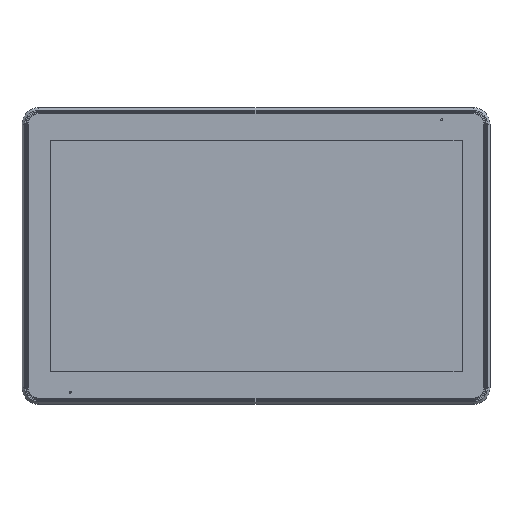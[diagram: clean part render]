
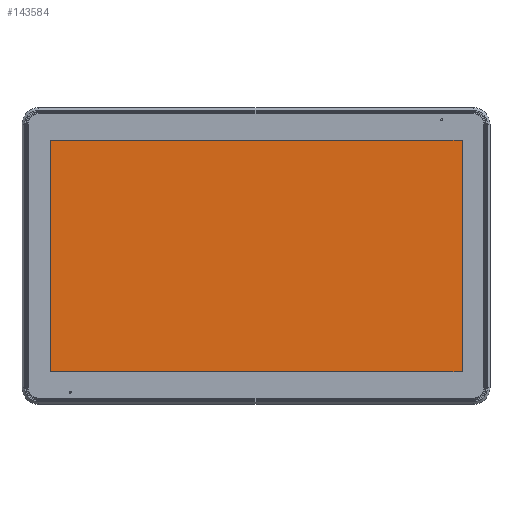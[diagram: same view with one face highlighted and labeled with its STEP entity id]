
A CAD part, top view. The second image highlights one B-rep face of the part: STEP entity #143584.
In plain terms, the highlighted planar face has unit normal (0, 0, 1).
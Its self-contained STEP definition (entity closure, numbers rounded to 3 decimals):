
#6758=PLANE('',#153529);
#12237=FACE_OUTER_BOUND('',#20086,.T.);
#20086=EDGE_LOOP('',(#113044,#113045,#113046,#113047));
#38081=LINE('',#231315,#51433);
#38082=LINE('',#231317,#51434);
#38083=LINE('',#231319,#51435);
#38084=LINE('',#231320,#51436);
#51433=VECTOR('',#180751,10.);
#51434=VECTOR('',#180752,10.);
#51435=VECTOR('',#180753,10.);
#51436=VECTOR('',#180754,10.);
#63650=VERTEX_POINT('',#231313);
#63651=VERTEX_POINT('',#231314);
#63652=VERTEX_POINT('',#231316);
#63653=VERTEX_POINT('',#231318);
#80878=EDGE_CURVE('',#63650,#63651,#38081,.T.);
#80879=EDGE_CURVE('',#63651,#63652,#38082,.T.);
#80880=EDGE_CURVE('',#63652,#63653,#38083,.T.);
#80881=EDGE_CURVE('',#63653,#63650,#38084,.T.);
#113044=ORIENTED_EDGE('',*,*,#80878,.T.);
#113045=ORIENTED_EDGE('',*,*,#80879,.T.);
#113046=ORIENTED_EDGE('',*,*,#80880,.T.);
#113047=ORIENTED_EDGE('',*,*,#80881,.T.);
#143584=ADVANCED_FACE('',(#12237),#6758,.T.);
#153529=AXIS2_PLACEMENT_3D('',#231312,#180749,#180750);
#180749=DIRECTION('center_axis',(0.,0.,
1.));
#180750=DIRECTION('ref_axis',(1.,0.,0.));
#180751=DIRECTION('',(-1.,0.,0.));
#180752=DIRECTION('',(0.,-1.,0.));
#180753=DIRECTION('',(1.,0.,0.));
#180754=DIRECTION('',(0.,1.,0.));
#231312=CARTESIAN_POINT('Origin',(0.,0.,
-0.201));
#231313=CARTESIAN_POINT('',(205.35,115.3,-0.201));
#231314=CARTESIAN_POINT('',(-204.85,115.3,-0.201));
#231315=CARTESIAN_POINT('',(0.125,115.3,-0.201));
#231316=CARTESIAN_POINT('',(-204.85,-115.5,-0.201));
#231317=CARTESIAN_POINT('',(-204.85,-0.05,-0.201));
#231318=CARTESIAN_POINT('',(205.35,-115.5,-0.201));
#231319=CARTESIAN_POINT('',(102.675,-115.5,-0.201));
#231320=CARTESIAN_POINT('',(205.35,57.65,-0.201));
